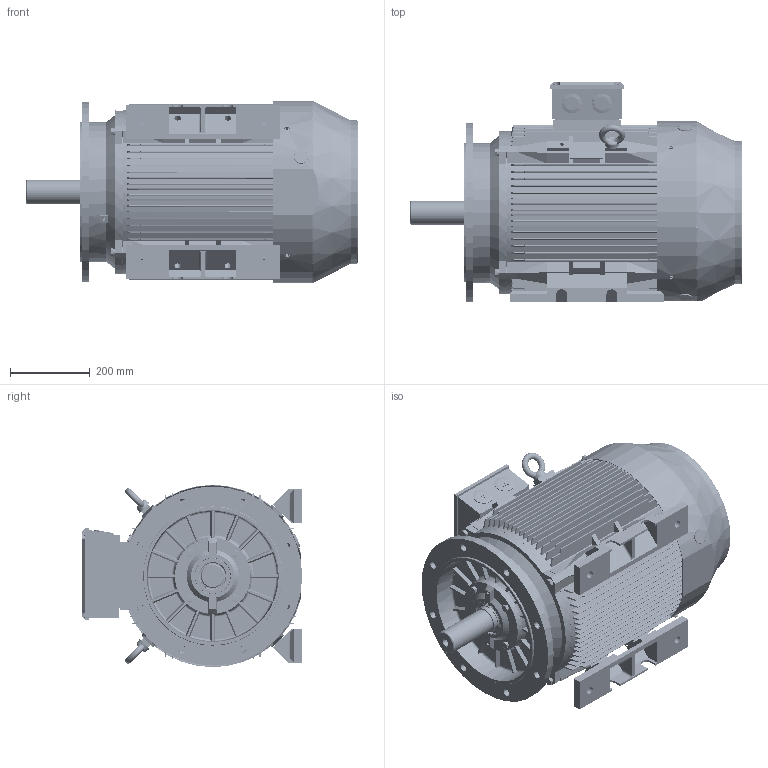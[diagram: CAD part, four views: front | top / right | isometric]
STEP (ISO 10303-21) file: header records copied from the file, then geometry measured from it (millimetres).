
FILE_DESCRIPTION (( 'STEP AP203' ), '1' );
FILE_NAME ('TC 225M B35外形图.STEP', '2013-02-28T07:12:05', ( '微软用户' ), ( '微软中国' ), 'SwSTEP 2.0', 'SolidWorks 2008', '' );
FILE_SCHEMA (( 'CONFIG_CONTROL_DESIGN' ));
Products named in the file (28): TC 225M转子_默认; TC 225 轴承外盖NDE_默认; 油封65-90-10_默认; 铜油嘴_默认; TC 225-4P 风叶_默认; 螺塞M40_默认; 扣塞_默认; M6-10_默认; 吊环M16_默认; TC 225M B35俋倛芞; TC225M B5机座_默认; TC225M 底脚_默认; TC 225 B3 端盖(后）_默认; TC 225M-4.6.8 轴_默认; 6313_默认; TC 225 轴承内盖_默认; TC 225 轴承外盖DE_默认; TC 200-225接线盒_默认; TC 200-225接线盒座_默认; TC 200-225接线盒盖_默认; M6-20_默认; M10-70_默认; 10_默认; 12_默认; M12-45_默认; 平键18-110_默认; TC 225风罩_默认; TC 225 B5 端盖_默认
Assembly tree (53 placements, depth 3):
  TC 225M B35俋倛芞
    吊环M16_默认  x2
    铜油嘴_默认  x2
    TC 225 轴承外盖NDE_默认
    12_默认  x4
    M10-70_默认  x4
    TC225M 底脚_默认  x2
    M12-45_默认  x4
    扣塞_默认  x2
    10_默认  x4
    M6-10_默认  x4
    TC 225风罩_默认
    TC225M B5机座_默认
    TC 225 轴承内盖_默认  x2
    油封65-90-10_默认  x2
    TC 225 B5 端盖_默认
    TC 225 B3 端盖(后）_默认
    TC 225 轴承外盖DE_默认
    TC 200-225接线盒_默认
      M6-20_默认  x4
      TC 200-225接线盒座_默认
      螺塞M40_默认  x2
      TC 200-225接线盒盖_默认
    TC 225-4P 风叶_默认
    TC 225M转子_默认
      TC 225M-4.6.8 轴_默认
      6313_默认  x2
    平键18-110_默认
Bounding box: 834.52 x 554 x 458.4 mm (x, y, z)
Volume: 23181602.7 mm3; surface area: 5395043.4 mm2
Topology: 53 solids, 54 shells, 8044 faces, 23248 edges, 15316 vertices
Faces by surface type: plane 3972, cylinder 3099, cone 425, torus 362, bspline 122, sphere 64
Entity records: 257612 total; most frequent: CARTESIAN_POINT 61714, ORIENTED_EDGE 41106, DIRECTION 39473, EDGE_CURVE 20553, AXIS2_PLACEMENT_3D 13718, VERTEX_POINT 13592, VECTOR 12037, LINE 12037
